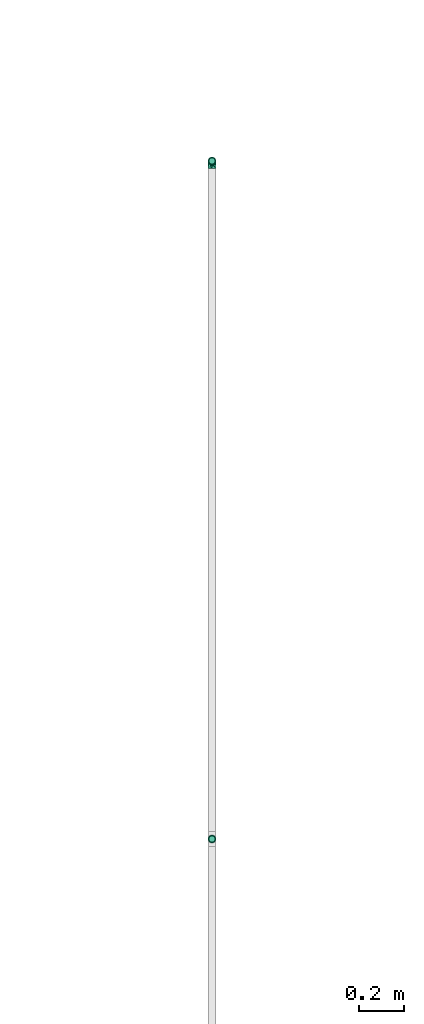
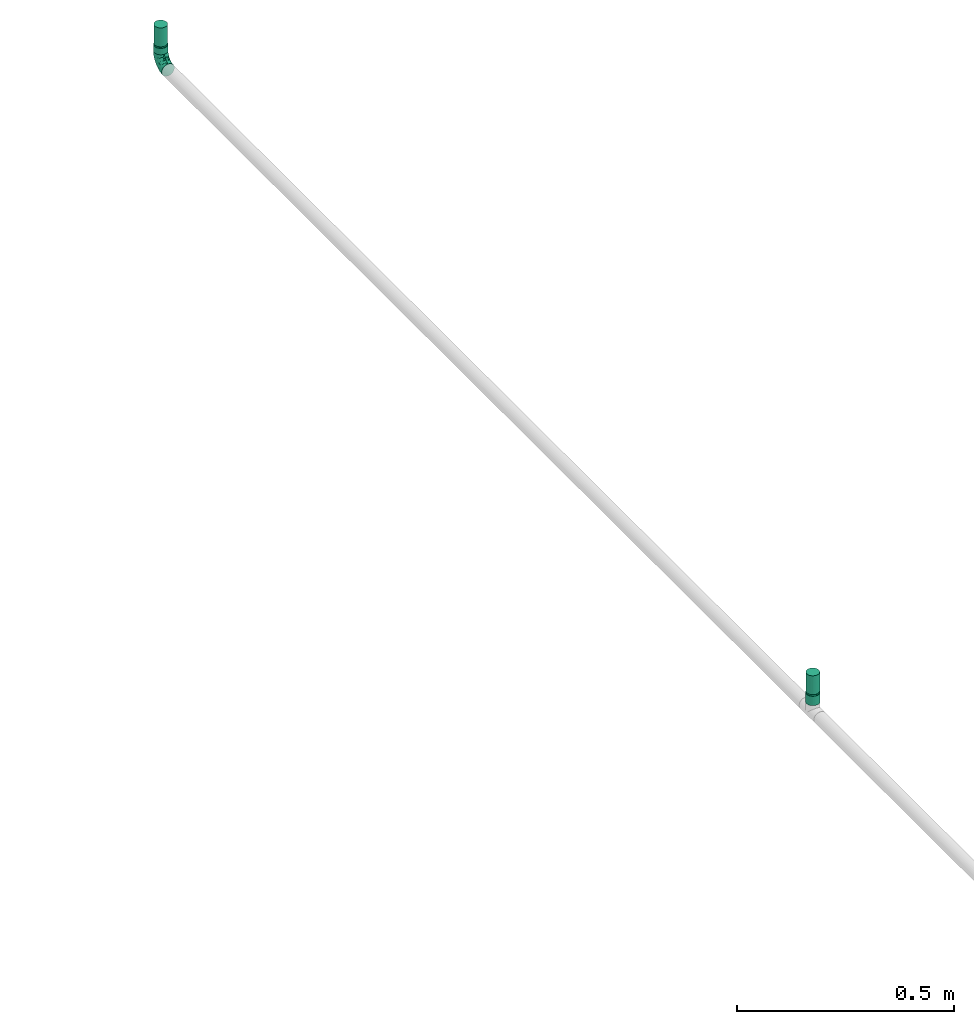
# One storey, part 37 of 45: 3 flow fittings, 2 flow segments, 2 flow terminals.
"""IFC2X3 building model written with IfcOpenShell, lengths in millimetres."""

from ifc_helpers import new_model, entity, si_unit, converted_unit, derived_unit, direction, frame, origin_with_axes, origin_2d_with_axis, place, context, subcontext, project, spatial, hollow_circle, extrude, open_shell, surface_model, source, transform, mapped, type_object, element, save


model = new_model("IFC2X3")

# Units and contexts
model_context = context("Model", 3, precision=0.01, world=frame((0.0, 4.29681676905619e-09, 0.0)), true_north=direction((4.01073788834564e-13, 1.0)))
plan_context = context("Plan", 3, precision=0.01, world=frame((0.0, 4.29681676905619e-09, 0.0)), true_north=direction((4.01073788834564e-13, 1.0)))
body_context = subcontext(model_context, "Body", "Model", "MODEL_VIEW")
ifc_project = project(units=[converted_unit("PLANEANGLEUNIT", "DEGREE", entity("IfcPositiveLengthMeasure", 0.0174532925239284), si_unit("PLANEANGLEUNIT", "RADIAN"), dimensions=[0, 0, 0, 0, 0, 0, 0]), si_unit("AREAUNIT", "SQUARE_METRE"), si_unit("LENGTHUNIT", "METRE", prefix="MILLI"), si_unit("MASSUNIT", "GRAM", prefix="KILO"), si_unit("POWERUNIT", "WATT"), si_unit("PRESSUREUNIT", "PASCAL", prefix="KILO"), si_unit("FORCEUNIT", "NEWTON", prefix="KILO"), si_unit("ELECTRICVOLTAGEUNIT", "VOLT"), si_unit("ELECTRICCURRENTUNIT", "AMPERE"), si_unit("THERMODYNAMICTEMPERATUREUNIT", "DEGREE_CELSIUS"), si_unit("TIMEUNIT", "SECOND"), si_unit("VOLUMEUNIT", "CUBIC_METRE"), derived_unit("LINEARVELOCITYUNIT", [(si_unit("LENGTHUNIT", "METRE"), 1), (si_unit("TIMEUNIT", "SECOND"), -1)]), derived_unit("VOLUMETRICFLOWRATEUNIT", [(si_unit("VOLUMEUNIT", "CUBIC_METRE"), 1), (si_unit("TIMEUNIT", "SECOND"), -1)]), derived_unit("THERMALTRANSMITTANCEUNIT", [(si_unit("POWERUNIT", "WATT"), 1), (si_unit("THERMODYNAMICTEMPERATUREUNIT", "KELVIN"), -1), (si_unit("AREAUNIT", "SQUARE_METRE"), -1)]), derived_unit("SOUNDPRESSUREUNIT", [(si_unit("PRESSUREUNIT", "PASCAL"), 1)])], contexts=[model_context, plan_context])

# Site, building, storey
site_placement = place(None, frame((0.0, -4.29681676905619e-09, 0.0), z_axis=(0.0, 0.0, 1.0), x_axis=(1.0, 0.0, 0.0)))
site = spatial("IfcSite", under=ifc_project, at=site_placement, CompositionType="ELEMENT")
building_placement = place(site_placement, frame((0.0, 4.29681676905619e-09, 0.0), z_axis=(0.0, 0.0, 1.0), x_axis=(1.0, 0.0, 0.0)))
building = spatial("IfcBuilding", under=site, at=building_placement, Name="mc-building", CompositionType="ELEMENT")
storey_placement = place(building_placement, frame((0.0, 0.0, 210200.0), z_axis=(0.0, 0.0, 1.0), x_axis=(1.0, 0.0, 0.0)))
storey = spatial("IfcBuildingStorey", under=building, at=storey_placement, Name="Nivå F - 0,7 m", CompositionType="ELEMENT", Elevation=210200.0)

# Flow fittings
pipe_fitting_type_1 = type_object("IfcPipeFittingType", Name="magi_pipe_fe_elbow_short_001", PredefinedType="BEND")
shared_shape_1 = source(origin_with_axes(), body_context, "Body", "SurfaceModel", [
    surface_model("IfcShellBasedSurfaceModel", [(-33.8, -11.9501, -11.9501), (-33.8, -14.63583, -8.45), (-33.8, -8.45, -14.63583), (-33.8, 0.0, -16.9), (-33.8, -4.37404, -16.32415), (-33.8, -16.32415, -4.37404), (-33.8, -16.9, 0.0), (-33.8, 11.9501, 11.9501), (-33.8, 14.63583, 8.45), (-33.8, 8.45, 14.63583), (-33.8, -11.9501, 11.9501), (-33.8, -8.45, 14.63583), (-33.8, -14.63583, 8.45), (-33.8, -16.32415, 4.37404), (-33.8, -4.37404, 16.32415), (-33.8, 0.0, 16.9), (-33.8, 16.9, 0.0), (-33.8, 16.32415, -4.37404), (-33.8, 16.32415, 4.37404), (-33.8, 4.37404, -16.32415), (-33.8, 8.45, -14.63583), (-33.8, 14.63583, -8.45), (-33.8, 11.9501, -11.9501), (-33.8, 4.37404, 16.32415), (-4.37404, 33.8, -16.32415), (16.9, 33.8, 0.0), (0.0, 33.8, -16.9), (-16.32415, 33.8, -4.37404), (-8.45, 33.8, -14.63583), (-14.63583, 33.8, -8.45), (-11.9501, 33.8, -11.9501), (16.32415, 33.8, 4.37404), (8.45, 33.8, -14.63583), (14.63583, 33.8, -8.45), (11.9501, 33.8, -11.9501), (4.37404, 33.8, -16.32415), (16.32415, 33.8, -4.37404), (-16.32415, 33.8, 4.37404), (-4.37404, 33.8, 16.32415), (-14.63583, 33.8, 8.45), (-8.45, 33.8, 14.63583), (-11.9501, 33.8, 11.9501), (14.63583, 33.8, 8.45), (8.45, 33.8, 14.63583), (11.9501, 33.8, 11.9501), (0.0, 33.8, 16.9), (4.37404, 33.8, 16.32415), (-16.9, 33.8, 0.0), (-24.79389, -13.12945, 9.48721), (-22.19287, -9.75018, 12.59315), (-24.09897, -14.97035, 0.0), (-14.93934, -10.76256, 8.5297), (-22.46095, -14.75051, 5.27077), (14.75051, 22.46094, 5.27077), (11.9251, 13.23888, 4.33236), (13.04069, 14.39795, 0.0), (7.71387, 13.68847, 11.55891), (9.75018, 22.19287, 12.59315), (4.10169, 13.0571, 14.04018), (-24.84007, -6.39063, 15.2048), (-25.81779, -2.23879, 16.61097), (-23.66549, 2.59054, 16.87119), (-26.50418, 14.06512, 11.08152), (-24.21253, 17.66365, 7.72657), (-29.58514, 15.86957, 7.00283), (-6.17382, -7.5455, 0.0), (-13.23888, -11.9251, 4.33236), (-14.39795, -13.04069, 0.0), (-17.81434, 18.87373, 11.97104), (-6.30846, 29.15138, 15.82987), (-2.31622, 25.28002, 16.85849), (-29.23923, 10.23435, 13.77053), (-1.45439, -2.85688, 7.61475), (-0.28326, 0.34872, 10.09509), (-5.74484, -4.04709, 10.4122), (-4.41137, 11.31918, 16.59407), (-8.39727, 3.10034, 15.7812), (-1.72649, 9.1306, 15.53089), (-17.39909, 24.75344, 7.64977), (-26.19233, 20.0512, 0.0), (-28.14518, 17.29657, 4.25857), (-26.05147, 6.6281, 15.96447), (-5.87354, 16.61944, 16.86968), (-12.51807, 12.51807, 16.48937), (-10.06312, 7.38516, 16.81295), (-3.01882, 3.01882, 13.81718), (-13.0571, -4.10169, 14.04018), (-16.82553, -0.15166, 16.38038), (10.76256, 14.93934, 8.5297), (13.12945, 24.79389, 9.48721), (6.39063, 24.84007, 15.2048), (2.23879, 25.81779, 16.61097), (-13.68847, -7.71387, 11.55891), (14.97035, 24.09897, 0.0), (-7.30894, 22.89991, 16.09489), (-10.67958, 26.17414, 14.008), (-12.78295, 18.26924, 15.06066), (-13.88562, 22.45231, 12.93244), (-18.04944, 15.16501, 14.04434), (-23.11658, 20.08178, 4.02986), (-21.84989, 21.84989, 0.0), (-18.55817, 25.48277, 3.93065), (-13.95142, 26.94732, 11.03289), (-18.57098, 7.23906, 16.59756), (-16.58335, 4.14122, 16.89279), (-17.96666, 11.46709, 15.63151), (-9.84453, 17.54304, 16.18938), (0.15166, 16.82553, 16.38038), (-23.27207, 11.47201, 14.23154), (3.84842, 5.86994, 10.70473), (-8.0212, -7.54413, 7.93275), (1.00345, -2.19508, 4.57414), (5.13203, 3.01004, 5.90201), (5.24161, 1.7543, 2.53265), (8.70457, 7.04947, 3.99182), (-20.0512, 26.19233, 0.0), (8.4852, 8.76699, 7.09296), (-4.55488, -6.72064, 4.90681), (2.05031, -2.05031, 0.0), (7.5455, 6.17382, 0.0), (-26.75399, 2.1369, -16.845), (-14.61995, 24.73803, -11.27736), (-28.45274, -13.45335, -9.81895), (-26.00469, 6.63555, -15.96645), (-23.06726, 20.04573, -4.26202), (-13.80647, -4.26506, -14.17873), (-14.67501, -0.21081, -16.07388), (-6.7902, -0.2828, -13.8478), (-24.53586, 11.08096, -14.13417), (-26.72048, 14.00837, -11.05776), (10.0967, 24.44989, -12.75976), (5.83237, 21.40218, -15.03047), (6.66249, 28.54238, -15.38093), (-20.38182, 15.48705, -12.74596), (12.53268, 21.23441, -9.15363), (12.54494, 15.67504, -5.54878), (9.7522, 12.89279, -8.66343), (-15.65186, 19.64213, -13.01327), (-12.03528, 20.66498, -14.67665), (-15.61907, 15.61906, -14.83879), (-25.56551, -15.26206, 0.0), (-24.65452, -15.12934, -5.50955), (13.45335, 28.45274, -9.81895), (15.12934, 24.65452, -5.50955), (-7.35442, -8.31014, -5.65563), (-15.67504, -12.54494, -5.54878), (-24.44989, -10.0967, -12.75976), (0.16522, 0.41303, -9.71728), (-5.70658, -5.33066, -8.89288), (-5.13869, -2.37198, -11.53565), (-21.23441, -12.53268, -9.15363), (0.71146, 7.93863, -14.09382), (0.21081, 14.67501, -16.07388), (3.49291, 14.42772, -14.76381), (-24.89911, -2.13088, -16.591), (-28.54238, -6.66249, -15.38093), (-18.44386, -7.71663, -13.26957), (2.13088, 24.89911, -16.591), (-28.64342, 17.44413, -2.89318), (1.70017, -1.28722, -5.09504), (-16.57067, 26.81947, -7.36596), (-17.69055, 27.4263, -3.76405), (-12.89279, -9.7522, -8.66343), (-5.96611, 5.96611, -15.95814), (-20.53709, 20.09345, -8.28985), (-2.1369, 26.75399, -16.845), (-6.89872, 24.58781, -16.02578), (-10.60739, 26.53157, -13.98044), (-21.40218, -5.83237, -15.03047), (2.93192, 5.89627, -11.55917), (6.89393, 12.61842, -11.82233), (5.58056, 5.95325, -8.79455), (-3.99512, 18.61798, -16.89635), (8.31014, 7.35442, -5.65563), (-9.1383, 9.86148, -16.89041), (-9.99983, 16.02119, -16.39699), (-16.68576, 9.78031, -16.34199), (-27.01915, 16.61158, -7.12979), (15.26206, 25.56551, 0.0), (-18.61798, 3.99512, -16.89635), (-19.37495, 27.82495, 0.0), (-12.61842, -6.89393, -11.82233), (-18.84705, 19.14018, -10.96545)], [open_shell([[[0, 1, 2]], [[3, 4, 2]], [[5, 6, 1]], [[7, 8, 9]], [[10, 11, 12]], [[13, 12, 11]], [[14, 15, 11]], [[16, 17, 18]], [[3, 6, 19]], [[20, 19, 17]], [[20, 17, 21]], [[22, 20, 21]], [[17, 19, 6]], [[2, 1, 6]], [[2, 6, 3]], [[6, 18, 17]], [[23, 18, 6]], [[8, 18, 23]], [[8, 23, 9]], [[13, 23, 6]], [[23, 13, 11]], [[11, 15, 23]], [[24, 25, 26]], [[27, 24, 28]], [[29, 27, 28]], [[29, 28, 30]], [[31, 25, 24]], [[32, 33, 34]], [[32, 35, 26]], [[33, 25, 36]], [[33, 32, 26]], [[25, 33, 26]], [[24, 27, 37]], [[31, 24, 37]], [[38, 37, 39]], [[40, 38, 39]], [[40, 39, 41]], [[31, 37, 38]], [[42, 43, 44]], [[43, 42, 31]], [[43, 45, 46]], [[43, 31, 38]], [[38, 45, 43]], [[37, 27, 47]], [[10, 48, 49]], [[13, 6, 50]], [[51, 48, 52]], [[53, 54, 55]], [[48, 10, 12]], [[13, 52, 12]], [[56, 57, 58]], [[49, 11, 10]], [[49, 59, 11]], [[15, 60, 61]], [[62, 63, 64]], [[65, 66, 67]], [[57, 44, 43]], [[62, 68, 63]], [[38, 69, 70]], [[9, 71, 7]], [[14, 60, 15]], [[72, 73, 74]], [[75, 76, 77]], [[7, 62, 8]], [[39, 37, 78]], [[79, 16, 80]], [[64, 18, 8]], [[15, 61, 23]], [[23, 81, 9]], [[82, 83, 84]], [[74, 85, 86]], [[59, 86, 87]], [[88, 89, 57]], [[90, 43, 46]], [[42, 53, 31]], [[46, 45, 91]], [[54, 53, 88]], [[42, 89, 53]], [[92, 86, 49]], [[89, 42, 44]], [[11, 59, 14]], [[53, 55, 93]], [[93, 31, 53]], [[66, 52, 67]], [[94, 82, 70]], [[95, 96, 94]], [[97, 98, 96]], [[79, 99, 100]], [[40, 41, 95]], [[101, 100, 99]], [[68, 78, 63]], [[38, 40, 69]], [[16, 18, 80]], [[95, 94, 69]], [[78, 101, 99]], [[41, 102, 95]], [[70, 45, 38]], [[97, 95, 102]], [[13, 50, 52]], [[90, 57, 43]], [[57, 90, 58]], [[81, 23, 61]], [[103, 104, 84]], [[105, 81, 103]], [[41, 39, 102]], [[106, 96, 83]], [[94, 106, 82]], [[91, 70, 107]], [[71, 62, 7]], [[62, 108, 98]], [[86, 59, 49]], [[67, 52, 50]], [[60, 59, 87]], [[92, 49, 51]], [[86, 85, 76]], [[91, 90, 46]], [[25, 31, 93]], [[107, 77, 58]], [[107, 58, 90]], [[58, 85, 109]], [[110, 74, 92]], [[72, 74, 110]], [[66, 51, 52]], [[72, 111, 112]], [[113, 114, 112]], [[56, 88, 57]], [[52, 48, 12]], [[49, 48, 51]], [[57, 89, 44]], [[53, 89, 88]], [[103, 81, 61]], [[71, 81, 108]], [[18, 64, 80]], [[63, 78, 99]], [[47, 115, 101]], [[101, 115, 100]], [[39, 78, 102]], [[68, 102, 78]], [[97, 96, 95]], [[105, 98, 108]], [[103, 84, 83]], [[107, 70, 82]], [[76, 84, 87]], [[82, 84, 75]], [[70, 91, 45]], [[90, 91, 107]], [[59, 60, 14]], [[61, 60, 87]], [[73, 85, 74]], [[109, 112, 116]], [[103, 61, 104]], [[105, 103, 83]], [[96, 105, 83]], [[81, 105, 108]], [[96, 98, 105]], [[62, 98, 68]], [[61, 87, 104]], [[87, 84, 104]], [[86, 76, 87]], [[77, 76, 85]], [[58, 77, 85]], [[75, 77, 107]], [[82, 75, 107]], [[76, 75, 84]], [[81, 71, 9]], [[62, 71, 108]], [[95, 69, 40]], [[70, 69, 94]], [[62, 64, 8]], [[80, 63, 99]], [[63, 80, 64]], [[80, 99, 79]], [[66, 65, 117]], [[110, 66, 117]], [[112, 114, 116]], [[118, 117, 65]], [[110, 92, 51]], [[112, 111, 113]], [[119, 55, 54]], [[74, 86, 92]], [[58, 109, 56]], [[116, 56, 109]], [[66, 110, 51]], [[72, 110, 117]], [[111, 72, 117]], [[73, 112, 109]], [[117, 118, 111]], [[113, 111, 118]], [[118, 119, 113]], [[114, 119, 54]], [[119, 114, 113]], [[116, 54, 88]], [[54, 116, 114]], [[116, 88, 56]], [[112, 73, 72]], [[85, 73, 109]], [[78, 37, 101]], [[47, 101, 37]], [[102, 68, 97]], [[97, 68, 98]], [[82, 106, 83]], [[94, 96, 106]], [[19, 120, 3]], [[29, 30, 121]], [[0, 122, 1]], [[20, 123, 19]], [[100, 124, 79]], [[125, 126, 127]], [[128, 22, 129]], [[130, 131, 132]], [[128, 129, 133]], [[134, 135, 136]], [[137, 138, 139]], [[128, 20, 22]], [[67, 140, 141]], [[134, 142, 143]], [[141, 5, 1]], [[144, 65, 145]], [[146, 0, 2]], [[147, 148, 149]], [[145, 141, 150]], [[151, 152, 153]], [[154, 4, 3]], [[2, 155, 146]], [[150, 146, 156]], [[155, 2, 4]], [[143, 135, 134]], [[35, 157, 26]], [[16, 79, 158]], [[148, 159, 144]], [[160, 161, 27]], [[145, 162, 144]], [[163, 152, 151]], [[27, 29, 160]], [[121, 164, 160]], [[32, 34, 130]], [[26, 165, 24]], [[24, 165, 166]], [[142, 34, 33]], [[30, 28, 167]], [[124, 161, 164]], [[157, 35, 132]], [[155, 154, 168]], [[123, 20, 128]], [[169, 170, 171]], [[172, 157, 152]], [[24, 166, 28]], [[132, 35, 32]], [[142, 130, 34]], [[168, 154, 126]], [[136, 135, 173]], [[133, 137, 139]], [[22, 21, 129]], [[170, 131, 130]], [[33, 36, 143]], [[172, 174, 175]], [[176, 123, 128]], [[158, 177, 17]], [[135, 55, 119]], [[167, 28, 166]], [[175, 166, 172]], [[137, 167, 138]], [[122, 141, 1]], [[140, 6, 5]], [[36, 25, 178]], [[170, 130, 134]], [[152, 157, 131]], [[165, 157, 172]], [[153, 170, 151]], [[152, 163, 174]], [[168, 125, 156]], [[122, 146, 150]], [[120, 154, 3]], [[179, 174, 126]], [[179, 126, 154]], [[126, 163, 127]], [[162, 145, 150]], [[140, 5, 141]], [[36, 178, 143]], [[55, 143, 178]], [[177, 129, 21]], [[128, 133, 139]], [[176, 128, 139]], [[120, 123, 179]], [[121, 160, 29]], [[161, 100, 180]], [[166, 175, 138]], [[121, 30, 167]], [[161, 47, 27]], [[79, 124, 158]], [[124, 164, 177]], [[161, 124, 100]], [[136, 171, 170]], [[127, 163, 151]], [[147, 171, 159]], [[148, 144, 162]], [[127, 151, 169]], [[127, 181, 125]], [[129, 177, 164]], [[21, 17, 177]], [[159, 65, 144]], [[67, 141, 145]], [[143, 55, 135]], [[135, 119, 173]], [[123, 120, 19]], [[154, 120, 179]], [[157, 165, 26]], [[166, 165, 172]], [[172, 152, 174]], [[176, 139, 175]], [[126, 174, 163]], [[176, 174, 179]], [[174, 176, 175]], [[123, 176, 179]], [[150, 181, 162]], [[127, 149, 181]], [[181, 148, 162]], [[159, 148, 147]], [[171, 136, 173]], [[170, 134, 136]], [[159, 171, 173]], [[171, 147, 169]], [[169, 147, 149]], [[151, 170, 169]], [[164, 182, 129]], [[182, 121, 137]], [[181, 149, 148]], [[169, 149, 127]], [[182, 137, 133]], [[167, 137, 121]], [[166, 138, 167]], [[175, 139, 138]], [[129, 182, 133]], [[121, 182, 164]], [[161, 160, 164]], [[47, 161, 180]], [[177, 158, 124]], [[16, 158, 17]], [[130, 132, 32]], [[157, 132, 131]], [[143, 142, 33]], [[130, 142, 134]], [[154, 155, 4]], [[146, 155, 168]], [[146, 122, 0]], [[141, 122, 150]], [[152, 131, 153]], [[159, 119, 118]], [[67, 145, 65]], [[170, 153, 131]], [[119, 159, 173]], [[159, 118, 65]], [[156, 125, 181]], [[126, 125, 168]], [[150, 156, 181]], [[168, 156, 146]]])]),
])
flow_fitting_placement = place(storey_placement, frame((347657.5, 466176.80156, 2810.44542), z_axis=(1.0, 0.0, 0.0), x_axis=(0.0, 1.0, 0.0)))
element("IfcFlowFitting", 1, at=flow_fitting_placement, inside=storey, type_object=pipe_fitting_type_1, Name="magi_pipe_fe_elbow_short_001", context=body_context, shape_type="MappedRepresentation", body=[
    mapped(shared_shape_1, transform((0.0, 0.0, 0.0), scale=1.0)),
])
pipe_fitting_type_2 = type_object("IfcPipeFittingType", Name="magi_pipe_fe_reducer_centric_short_001", PredefinedType="TRANSITION")
shared_shape_2 = source(origin_with_axes(), body_context, "Body", "SurfaceModel", [
    surface_model("IfcShellBasedSurfaceModel", [(9.0, 4.37404, -16.32415), (9.0, 8.45, -14.63583), (9.0, 11.9501, -11.9501), (9.0, 0.0, -16.9), (9.0, 16.32415, -4.37404), (9.0, 16.32415, 4.37404), (9.0, 14.63583, -8.45), (9.0, -8.45, -14.63583), (9.0, -4.37404, -16.32415), (9.0, -11.9501, -11.9501), (9.0, -16.32415, -4.37404), (9.0, -14.63583, -8.45), (9.0, -16.32415, 4.37404), (9.0, 16.9, 0.0), (9.0, 14.63583, 8.45), (9.0, 11.9501, 11.9501), (9.0, 4.37404, 16.32415), (9.0, 0.0, 16.9), (9.0, 8.45, 14.63583), (9.0, -14.63583, 8.45), (9.0, -16.9, 0.0), (9.0, -8.45, 14.63583), (9.0, -11.9501, 11.9501), (9.0, -4.37404, 16.32415), (7.0, 4.37404, 16.32415), (7.0, -14.63583, 8.45), (7.0, 0.0, 16.9), (7.0, 16.32415, 4.37404), (7.0, 8.45, 14.63583), (7.0, 11.9501, 11.9501), (7.0, 14.63583, 8.45), (7.0, -8.45, 14.63583), (7.0, -11.9501, 11.9501), (7.0, -4.37404, 16.32415), (7.0, -16.32415, 4.37404), (7.0, -16.32415, -4.37404), (7.0, -16.9, 0.0), (7.0, -8.45, -14.63583), (7.0, 16.32415, -4.37404), (7.0, 11.9501, -11.9501), (7.0, 14.63583, -8.45), (7.0, 8.45, -14.63583), (7.0, 4.37404, -16.32415), (7.0, 0.0, -16.9), (7.0, -11.9501, -11.9501), (7.0, -14.63583, -8.45), (7.0, -4.37404, -16.32415), (7.0, 16.9, 0.0), (-2.0, -9.47523, 9.47523), (-2.0, 0.0, 13.4), (-2.0, 3.46818, 12.94341), (-2.0, 6.7, 11.60474), (-2.0, 9.47523, 9.47523), (-2.0, 11.60474, 6.7), (-2.0, 12.94341, 3.46818), (-2.0, -3.46818, 12.94341), (-2.0, -6.7, 11.60474), (-2.0, -12.94341, 3.46818), (-2.0, -11.60474, 6.7), (-2.0, -6.7, -11.60474), (-2.0, -12.94341, -3.46818), (-2.0, -13.4, 0.0), (-2.0, 12.94341, -3.46818), (-2.0, 6.7, -11.60474), (-2.0, 9.47523, -9.47523), (-2.0, 11.60474, -6.7), (-2.0, 3.46818, -12.94341), (-2.0, 0.0, -13.4), (-2.0, -9.47523, -9.47523), (-2.0, -11.60474, -6.7), (-2.0, -3.46818, -12.94341), (-2.0, 13.4, 0.0), (0.0, 12.94341, -3.46818), (0.0, 3.46818, -12.94341), (0.0, 6.7, -11.60474), (0.0, 11.60474, -6.7), (0.0, 9.47523, -9.47523), (0.0, -6.7, -11.60474), (0.0, -12.94341, 3.46818), (0.0, -3.46818, -12.94341), (0.0, 0.0, -13.4), (0.0, -9.47523, -9.47523), (0.0, -12.94341, -3.46818), (0.0, -11.60474, -6.7), (0.0, 13.4, 0.0), (0.0, 12.94341, 3.46818), (0.0, 11.60474, 6.7), (0.0, 9.47523, 9.47523), (0.0, 0.0, 13.4), (0.0, 6.7, 11.60474), (0.0, 3.46818, 12.94341), (0.0, -9.47523, 9.47523), (0.0, -11.60474, 6.7), (0.0, -13.4, 0.0), (0.0, -3.46818, 12.94341), (0.0, -6.7, 11.60474), (7.0, -14.51228, -5.76448), (0.0, -11.43761, -4.73762), (7.0, -13.23119, -8.85729), (0.0, -10.45642, -7.10642), (0.0, -12.41881, -2.36881), (7.0, -15.70614, -2.88224), (0.0, -2.36881, -12.41881), (7.0, -5.97505, -14.42505), (0.0, -7.10642, -10.45642), (0.0, -4.73762, -11.43761), (7.0, -2.98753, -15.66253), (7.0, -8.96258, -13.18758), (7.0, 2.98753, -15.66253), (0.0, 2.36881, -12.41881), (0.0, 12.45339, -2.28533), (7.0, 13.18758, -8.96258), (0.0, 10.45642, -7.10642), (7.0, 14.42505, -5.97505), (0.0, 11.43761, -4.73762), (0.0, 7.10642, -10.45642), (7.0, 8.96258, -13.18758), (7.0, 15.66253, -2.98753), (0.0, 4.73762, -11.43761), (7.0, 5.97505, -14.42505), (7.0, 14.51228, 5.76448), (0.0, 11.43761, 4.73762), (7.0, 13.23119, 8.85729), (0.0, 10.45642, 7.10642), (0.0, 12.41881, 2.36881), (7.0, 15.70614, 2.88224), (0.0, 2.36881, 12.41881), (7.0, 5.97505, 14.42505), (0.0, 7.10642, 10.45642), (0.0, 4.73762, 11.43761), (7.0, 2.98753, 15.66253), (7.0, 8.96258, 13.18758), (7.0, -2.98753, 15.66253), (0.0, -2.36881, 12.41881), (0.0, -12.45339, 2.28533), (7.0, -13.18758, 8.96258), (0.0, -10.45642, 7.10642), (7.0, -14.42505, 5.97505), (0.0, -11.43761, 4.73762), (0.0, -7.10642, 10.45642), (7.0, -8.96258, 13.18758), (7.0, -15.66253, 2.98753), (0.0, -4.73762, 11.43761), (7.0, -5.97505, 14.42505)], [open_shell([[[0, 1, 2]], [[3, 0, 2]], [[2, 4, 5]], [[4, 2, 6]], [[2, 5, 7]], [[3, 7, 8]], [[3, 2, 7]], [[9, 10, 11]], [[10, 9, 7]], [[7, 12, 10]], [[5, 4, 13]], [[5, 14, 15]], [[5, 15, 16]], [[16, 17, 5]], [[16, 15, 18]], [[5, 17, 19]], [[5, 19, 12]], [[20, 10, 12]], [[19, 21, 22]], [[19, 17, 21]], [[21, 17, 23]], [[12, 7, 5]], [[24, 25, 26]], [[27, 24, 28]], [[29, 30, 27]], [[29, 27, 28]], [[25, 24, 27]], [[31, 25, 32]], [[25, 31, 33]], [[26, 25, 33]], [[27, 34, 25]], [[34, 35, 36]], [[34, 27, 37]], [[27, 38, 39]], [[39, 38, 40]], [[39, 41, 42]], [[37, 27, 39]], [[42, 43, 39]], [[35, 44, 45]], [[44, 35, 37]], [[37, 43, 46]], [[35, 34, 37]], [[39, 43, 37]], [[38, 27, 47]], [[35, 10, 36]], [[45, 11, 35]], [[7, 44, 37]], [[45, 44, 9]], [[8, 37, 46]], [[35, 11, 10]], [[10, 20, 36]], [[8, 7, 37]], [[9, 44, 7]], [[9, 11, 45]], [[3, 8, 46]], [[46, 43, 3]], [[42, 0, 43]], [[41, 1, 42]], [[6, 39, 40]], [[41, 39, 2]], [[4, 40, 38]], [[41, 2, 1]], [[1, 0, 42]], [[13, 4, 38]], [[6, 40, 4]], [[6, 2, 39]], [[47, 13, 38]], [[43, 0, 3]], [[27, 5, 47]], [[30, 14, 27]], [[18, 29, 28]], [[30, 29, 15]], [[16, 28, 24]], [[27, 14, 5]], [[5, 13, 47]], [[16, 18, 28]], [[15, 29, 18]], [[15, 14, 30]], [[17, 16, 24]], [[24, 26, 17]], [[33, 23, 26]], [[31, 21, 33]], [[19, 32, 25]], [[31, 32, 22]], [[12, 25, 34]], [[31, 22, 21]], [[21, 23, 33]], [[20, 12, 34]], [[19, 25, 12]], [[19, 22, 32]], [[36, 20, 34]], [[26, 23, 17]], [[48, 49, 50]], [[51, 48, 50]], [[52, 53, 54]], [[52, 54, 51]], [[48, 51, 54]], [[55, 48, 56]], [[55, 49, 48]], [[48, 57, 58]], [[48, 59, 57]], [[57, 60, 61]], [[62, 48, 54]], [[48, 62, 63]], [[64, 62, 65]], [[66, 48, 63]], [[63, 62, 64]], [[66, 67, 48]], [[60, 68, 69]], [[60, 57, 68]], [[70, 59, 48]], [[57, 59, 68]], [[70, 48, 67]], [[71, 62, 54]], [[72, 73, 74]], [[75, 74, 76]], [[77, 73, 78]], [[72, 74, 75]], [[73, 72, 78]], [[73, 79, 80]], [[73, 77, 79]], [[81, 82, 83]], [[78, 82, 81]], [[81, 77, 78]], [[72, 84, 78]], [[85, 86, 87]], [[85, 87, 88]], [[89, 90, 88]], [[89, 88, 87]], [[85, 88, 91]], [[78, 91, 92]], [[93, 82, 78]], [[91, 94, 95]], [[91, 78, 85]], [[94, 91, 88]], [[78, 84, 85]], [[60, 82, 61]], [[69, 83, 60]], [[77, 68, 59]], [[69, 68, 81]], [[79, 59, 70]], [[60, 83, 82]], [[82, 93, 61]], [[79, 77, 59]], [[81, 68, 77]], [[81, 83, 69]], [[80, 79, 70]], [[70, 67, 80]], [[66, 73, 67]], [[63, 74, 66]], [[75, 64, 65]], [[63, 64, 76]], [[72, 65, 62]], [[63, 76, 74]], [[74, 73, 66]], [[84, 72, 62]], [[75, 65, 72]], [[75, 76, 64]], [[71, 84, 62]], [[67, 73, 80]], [[54, 85, 71]], [[53, 86, 54]], [[89, 52, 51]], [[53, 52, 87]], [[90, 51, 50]], [[54, 86, 85]], [[85, 84, 71]], [[90, 89, 51]], [[87, 52, 89]], [[87, 86, 53]], [[88, 90, 50]], [[50, 49, 88]], [[55, 94, 49]], [[56, 95, 55]], [[92, 48, 58]], [[56, 48, 91]], [[78, 58, 57]], [[56, 91, 95]], [[95, 94, 55]], [[93, 78, 57]], [[92, 58, 78]], [[92, 91, 48]], [[61, 93, 57]], [[49, 94, 88]], [[36, 29, 26]], [[39, 47, 29]], [[26, 32, 36]], [[36, 44, 43]], [[43, 39, 36]], [[36, 39, 29]], [[81, 91, 88]], [[81, 93, 91]], [[88, 87, 84]], [[84, 76, 81]], [[80, 81, 76]], [[84, 81, 88]], [[96, 97, 98]], [[81, 44, 99]], [[100, 96, 101]], [[102, 80, 43]], [[103, 104, 105]], [[102, 43, 106]], [[107, 81, 104]], [[108, 80, 109]], [[110, 84, 47]], [[93, 101, 36]], [[108, 43, 80]], [[111, 76, 112]], [[113, 112, 114]], [[115, 39, 116]], [[110, 47, 117]], [[99, 98, 97]], [[117, 113, 114]], [[106, 103, 105]], [[118, 116, 119]], [[109, 118, 119]], [[96, 100, 97]], [[93, 100, 101]], [[99, 44, 98]], [[104, 103, 107]], [[107, 44, 81]], [[106, 105, 102]], [[112, 113, 111]], [[111, 39, 76]], [[117, 114, 110]], [[116, 118, 115]], [[115, 76, 39]], [[109, 119, 108]], [[120, 121, 122]], [[87, 29, 123]], [[124, 120, 125]], [[126, 88, 26]], [[127, 128, 129]], [[126, 26, 130]], [[131, 87, 128]], [[132, 88, 133]], [[134, 93, 36]], [[84, 125, 47]], [[132, 26, 88]], [[135, 91, 136]], [[137, 136, 138]], [[139, 32, 140]], [[134, 36, 141]], [[123, 122, 121]], [[141, 137, 138]], [[130, 127, 129]], [[142, 140, 143]], [[133, 142, 143]], [[120, 124, 121]], [[84, 124, 125]], [[123, 29, 122]], [[128, 127, 131]], [[131, 29, 87]], [[130, 129, 126]], [[136, 137, 135]], [[135, 32, 91]], [[141, 138, 134]], [[140, 142, 139]], [[139, 91, 32]], [[133, 143, 132]]])]),
])
for number, where, z_axis, x_axis, name in (
    (2, (347657.5, 463176.80156, 2869.04800000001), (1.0, 0.0, 0.0), (0.0, 0.0, -1.0), "magi_pipe_fe_reducer_centric_short_001"),
    (3, (347657.5, 466176.80156, 2869.04800000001), (1.0, 0.0, 0.0), (0.0, 0.0, -1.0), "magi_pipe_fe_reducer_centric_short_001"),
):
    element("IfcFlowFitting", number, at=place(storey_placement, frame(where, z_axis=z_axis, x_axis=x_axis)), inside=storey, type_object=pipe_fitting_type_2, Name=name, context=body_context, shape_type="MappedRepresentation", body=[
        mapped(shared_shape_2, transform((0.0, 0.0, 0.0), scale=1.0)),
    ])

# Flow segments
pipe_segment_type = type_object("IfcPipeSegmentType", Name="Stålrør normaltykke", PredefinedType="RIGIDSEGMENT")
shared_shape_3 = source(origin_with_axes(), body_context, "Body", "SweptSolid", [
    extrude(hollow_circle(Radius=16.9, WallThickness=2.0, at=origin_2d_with_axis()), frame((0.0, 0.0, 0.0), z_axis=(1.0, 0.0, 0.0), x_axis=(0.0, 1.0, 0.0)), (0.0, 0.0, 1.0), 26.3),
])
flow_segment_1_placement = place(storey_placement, frame((347657.5, 463176.80156, 2862.04800000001), z_axis=(1.0, 0.0, 0.0), x_axis=(0.0, 0.0, -1.0)))
element("IfcFlowSegment", 4, at=flow_segment_1_placement, inside=storey, type_object=pipe_segment_type, Name="Stålrør normaltykke", context=body_context, shape_type="MappedRepresentation", body=[
    mapped(shared_shape_3, transform((0.0, 0.0, 0.0), scale=1.0)),
])
shared_shape_4 = source(origin_with_axes(), body_context, "Body", "SweptSolid", [
    extrude(hollow_circle(Radius=16.9, WallThickness=2.0, at=origin_2d_with_axis()), frame((0.0, 0.0, 0.0), z_axis=(1.0, 0.0, 0.0), x_axis=(0.0, 1.0, 0.0)), (0.0, 0.0, 1.0), 17.8),
])
flow_segment_2_placement = place(storey_placement, frame((347657.5, 466176.80156, 2844.24541999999), z_axis=(1.0, 0.0, 0.0), x_axis=(0.0, 0.0, 1.0)))
element("IfcFlowSegment", 5, at=flow_segment_2_placement, inside=storey, type_object=pipe_segment_type, Name="Stålrør normaltykke", context=body_context, shape_type="MappedRepresentation", body=[
    mapped(shared_shape_4, transform((0.0, 0.0, 0.0), scale=1.0)),
])

# Flow terminals
fire_suppression_terminal_type = type_object("IfcFireSuppressionTerminalType", Name="SP-15-K80-68DGR-STD", PredefinedType="NOTDEFINED")
shared_shape_5 = source(origin_with_axes(), body_context, "Body", "SurfaceModel", [
    surface_model("IfcShellBasedSurfaceModel", [(4.1411, -15.45481, 53.0), (8.0, -13.85641, 53.0), (11.31371, -11.31371, 53.0), (-8.0, -13.85641, 53.0), (15.45481, -4.1411, 53.0), (16.0, 0.0, 53.0), (13.85641, -8.0, 53.0), (0.0, -16.0, 53.0), (-4.1411, -15.45481, 53.0), (-13.85641, -8.0, 53.0), (-11.31371, -11.31371, 53.0), (-15.45481, -4.1411, 53.0), (15.45481, 4.1411, 53.0), (13.85641, 8.0, 53.0), (11.31371, 11.31371, 53.0), (-4.1411, 15.45481, 53.0), (8.0, 13.85641, 53.0), (4.1411, 15.45481, 53.0), (0.0, 16.0, 53.0), (-13.85641, 8.0, 53.0), (-15.45481, 4.1411, 53.0), (-16.0, 0.0, 53.0), (-11.31371, 11.31371, 53.0), (-8.0, 13.85641, 53.0), (0.0, 16.0, 0.0), (4.1411, 15.45481, 0.0), (8.0, 13.85641, 0.0), (-4.1411, 15.45481, 0.0), (11.31371, 11.31371, 0.0), (13.85641, 8.0, 0.0), (15.45481, 4.1411, 0.0), (-15.45481, -4.1411, 0.0), (-11.31371, 11.31371, 0.0), (-8.0, 13.85641, 0.0), (-13.85641, 8.0, 0.0), (-15.45481, 4.1411, 0.0), (-16.0, 0.0, 0.0), (4.1411, -15.45481, 0.0), (16.0, 0.0, 0.0), (15.45481, -4.1411, 0.0), (13.85641, -8.0, 0.0), (11.31371, -11.31371, 0.0), (8.0, -13.85641, 0.0), (-8.0, -13.85641, 0.0), (-13.85641, -8.0, 0.0), (-11.31371, -11.31371, 0.0), (0.0, -16.0, 0.0), (-4.1411, -15.45481, 0.0)], [open_shell([[[0, 1, 2]], [[3, 0, 2]], [[4, 5, 2]], [[4, 2, 6]], [[3, 2, 5]], [[7, 3, 8]], [[7, 0, 3]], [[3, 9, 10]], [[9, 3, 11]], [[5, 11, 3]], [[5, 12, 11]], [[12, 13, 14]], [[15, 12, 14]], [[16, 17, 18]], [[14, 16, 15]], [[18, 15, 16]], [[11, 19, 20]], [[21, 11, 20]], [[22, 15, 23]], [[15, 22, 19]], [[19, 11, 15]], [[11, 12, 15]], [[24, 25, 26]], [[27, 24, 26]], [[28, 29, 30]], [[27, 26, 28]], [[27, 28, 31]], [[27, 32, 33]], [[32, 27, 34]], [[34, 31, 35]], [[31, 34, 27]], [[35, 31, 36]], [[28, 30, 31]], [[37, 38, 39]], [[37, 39, 40]], [[41, 42, 37]], [[41, 37, 40]], [[38, 37, 43]], [[44, 43, 45]], [[43, 44, 31]], [[43, 46, 47]], [[43, 31, 38]], [[37, 46, 43]], [[38, 31, 30]], [[11, 31, 44]], [[45, 9, 44]], [[3, 43, 47]], [[45, 43, 10]], [[8, 47, 46]], [[31, 21, 36]], [[31, 11, 21]], [[44, 9, 11]], [[45, 10, 9]], [[3, 10, 43]], [[47, 8, 3]], [[46, 7, 8]], [[0, 37, 42]], [[41, 1, 42]], [[6, 40, 39]], [[41, 40, 2]], [[4, 39, 38]], [[37, 0, 7]], [[42, 1, 0]], [[41, 2, 1]], [[40, 6, 2]], [[4, 6, 39]], [[38, 5, 4]], [[37, 7, 46]], [[12, 38, 30]], [[13, 30, 29]], [[16, 26, 25]], [[17, 25, 24]], [[30, 13, 12]], [[12, 5, 38]], [[28, 14, 13]], [[28, 26, 14]], [[14, 26, 16]], [[25, 17, 16]], [[28, 13, 29]], [[24, 18, 17]], [[15, 27, 33]], [[32, 23, 33]], [[19, 34, 35]], [[32, 34, 22]], [[20, 35, 36]], [[27, 15, 18]], [[33, 23, 15]], [[32, 22, 23]], [[34, 19, 22]], [[20, 19, 35]], [[36, 21, 20]], [[27, 18, 24]]])]),
])
for number, where, z_axis, x_axis in (
    (6, (347657.5, 463176.80156, 2866.0), (0.0, 0.0, 1.0), (1.0, 0.0, 0.0)),
    (7, (347657.5, 466176.80156, 2866.0), (0.0, 0.0, 1.0), (1.0, 0.0, 0.0)),
):
    element("IfcFlowTerminal", number, at=place(storey_placement, frame(where, z_axis=z_axis, x_axis=x_axis)), inside=storey, type_object=fire_suppression_terminal_type, Name="SP-15-K80-68DGR-STD", context=body_context, shape_type="MappedRepresentation", body=[
        mapped(shared_shape_5, transform((0.0, 0.0, 0.0), scale=1.0)),
    ])

save(model, "model.ifc")
